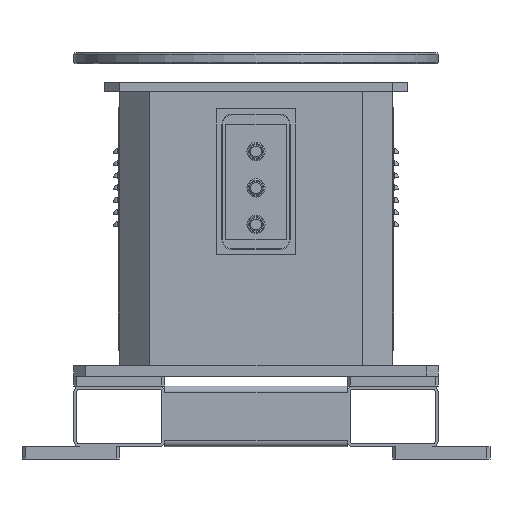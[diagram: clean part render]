
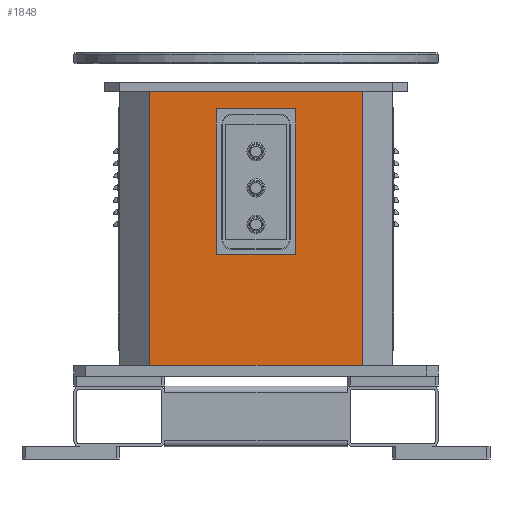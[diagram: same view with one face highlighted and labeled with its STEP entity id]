
A CAD part, front view. The second image highlights one B-rep face of the part: STEP entity #1848.
In plain terms, the highlighted planar face has unit normal (0, -1, 0).
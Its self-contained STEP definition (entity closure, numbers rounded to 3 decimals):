
#674 = CARTESIAN_POINT ( 'NONE',  ( 50., -225., 225. ) ) ;
#981 = CARTESIAN_POINT ( 'NONE',  ( -50., -225., 415. ) ) ;
#1015 = VERTEX_POINT ( 'NONE', #23024 ) ;
#1069 = DIRECTION ( 'NONE',  ( 0., 0., -1. ) ) ;
#1170 = DIRECTION ( 'NONE',  ( 0., 0., 1. ) ) ;
#1313 = LINE ( 'NONE', #14476, #20684 ) ;
#1431 = ORIENTED_EDGE ( 'NONE', *, *, #11838, .F. ) ;
#1719 = ORIENTED_EDGE ( 'NONE', *, *, #18496, .T. ) ;
#1781 = DIRECTION ( 'NONE',  ( 1., 0., 0. ) ) ;
#1848 = ADVANCED_FACE ( 'NONE', ( #24010, #5173 ), #21365, .F. ) ;
#1898 = DIRECTION ( 'NONE',  ( 1., 0., 0. ) ) ;
#2086 = LINE ( 'NONE', #20680, #11463 ) ;
#2134 = CARTESIAN_POINT ( 'NONE',  ( 175., -225., 18. ) ) ;
#3242 = VECTOR ( 'NONE', #1069, 1000. ) ;
#3480 = CARTESIAN_POINT ( 'NONE',  ( -50., -225., 415. ) ) ;
#3681 = ORIENTED_EDGE ( 'NONE', *, *, #19104, .F. ) ;
#4247 = CARTESIAN_POINT ( 'NONE',  ( -50., -225., 415. ) ) ;
#4601 = CARTESIAN_POINT ( 'NONE',  ( -50., -225., 225. ) ) ;
#4833 = DIRECTION ( 'NONE',  ( 0., 0., 1. ) ) ;
#5173 = FACE_OUTER_BOUND ( 'NONE', #12569, .T. ) ;
#5362 = DIRECTION ( 'NONE',  ( -1., 0., 0. ) ) ;
#5891 = ORIENTED_EDGE ( 'NONE', *, *, #23480, .F. ) ;
#5905 = CARTESIAN_POINT ( 'NONE',  ( -175., -225., 468. ) ) ;
#6888 = VECTOR ( 'NONE', #1781, 1000. ) ;
#7348 = CARTESIAN_POINT ( 'NONE',  ( 175., -225., 468. ) ) ;
#8106 = VECTOR ( 'NONE', #18404, 1000. ) ;
#8263 = ORIENTED_EDGE ( 'NONE', *, *, #15141, .T. ) ;
#9454 = LINE ( 'NONE', #22173, #10045 ) ;
#9770 = VERTEX_POINT ( 'NONE', #4601 ) ;
#10045 = VECTOR ( 'NONE', #20362, 1000. ) ;
#11463 = VECTOR ( 'NONE', #1898, 1000. ) ;
#11838 = EDGE_CURVE ( 'NONE', #19261, #13532, #21537, .T. ) ;
#11888 = LINE ( 'NONE', #20573, #6888 ) ;
#11982 = ORIENTED_EDGE ( 'NONE', *, *, #15723, .F. ) ;
#12397 = DIRECTION ( 'NONE',  ( 0., 1., 0. ) ) ;
#12569 = EDGE_LOOP ( 'NONE', ( #11982, #8263, #19611, #1719 ) ) ;
#13337 = EDGE_CURVE ( 'NONE', #9770, #14885, #2086, .T. ) ;
#13532 = VERTEX_POINT ( 'NONE', #4247 ) ;
#13925 = VECTOR ( 'NONE', #4833, 1000. ) ;
#14225 = AXIS2_PLACEMENT_3D ( 'NONE', #23667, #12397, #1170 ) ;
#14476 = CARTESIAN_POINT ( 'NONE',  ( -225., -225., 18. ) ) ;
#14885 = VERTEX_POINT ( 'NONE', #674 ) ;
#15141 = EDGE_CURVE ( 'NONE', #18819, #1015, #23695, .T. ) ;
#15723 = EDGE_CURVE ( 'NONE', #18819, #19267, #11888, .T. ) ;
#16176 = EDGE_LOOP ( 'NONE', ( #1431, #5891, #22661, #3681 ) ) ;
#16216 = EDGE_CURVE ( 'NONE', #1015, #20458, #1313, .T. ) ;
#16460 = DIRECTION ( 'NONE',  ( 1., 0., 0. ) ) ;
#18404 = DIRECTION ( 'NONE',  ( 0., 0., -1. ) ) ;
#18496 = EDGE_CURVE ( 'NONE', #20458, #19267, #9454, .T. ) ;
#18819 = VERTEX_POINT ( 'NONE', #5905 ) ;
#18920 = LINE ( 'NONE', #21685, #13925 ) ;
#19104 = EDGE_CURVE ( 'NONE', #13532, #9770, #19444, .T. ) ;
#19261 = VERTEX_POINT ( 'NONE', #22317 ) ;
#19267 = VERTEX_POINT ( 'NONE', #7348 ) ;
#19444 = LINE ( 'NONE', #981, #3242 ) ;
#19611 = ORIENTED_EDGE ( 'NONE', *, *, #16216, .T. ) ;
#20362 = DIRECTION ( 'NONE',  ( 0., 0., 1. ) ) ;
#20458 = VERTEX_POINT ( 'NONE', #2134 ) ;
#20573 = CARTESIAN_POINT ( 'NONE',  ( -225., -225., 468. ) ) ;
#20680 = CARTESIAN_POINT ( 'NONE',  ( -50., -225., 225. ) ) ;
#20684 = VECTOR ( 'NONE', #16460, 1000. ) ;
#20944 = VECTOR ( 'NONE', #5362, 1000. ) ;
#21365 = PLANE ( 'NONE',  #14225 ) ;
#21537 = LINE ( 'NONE', #3480, #20944 ) ;
#21685 = CARTESIAN_POINT ( 'NONE',  ( 50., -225., 415. ) ) ;
#22173 = CARTESIAN_POINT ( 'NONE',  ( 175., -225., 468. ) ) ;
#22317 = CARTESIAN_POINT ( 'NONE',  ( 50., -225., 415. ) ) ;
#22661 = ORIENTED_EDGE ( 'NONE', *, *, #13337, .F. ) ;
#23024 = CARTESIAN_POINT ( 'NONE',  ( -175., -225., 18. ) ) ;
#23480 = EDGE_CURVE ( 'NONE', #14885, #19261, #18920, .T. ) ;
#23667 = CARTESIAN_POINT ( 'NONE',  ( -225., -225., 468. ) ) ;
#23695 = LINE ( 'NONE', #23990, #8106 ) ;
#23990 = CARTESIAN_POINT ( 'NONE',  ( -175., -225., 468. ) ) ;
#24010 = FACE_BOUND ( 'NONE', #16176, .T. ) ;
